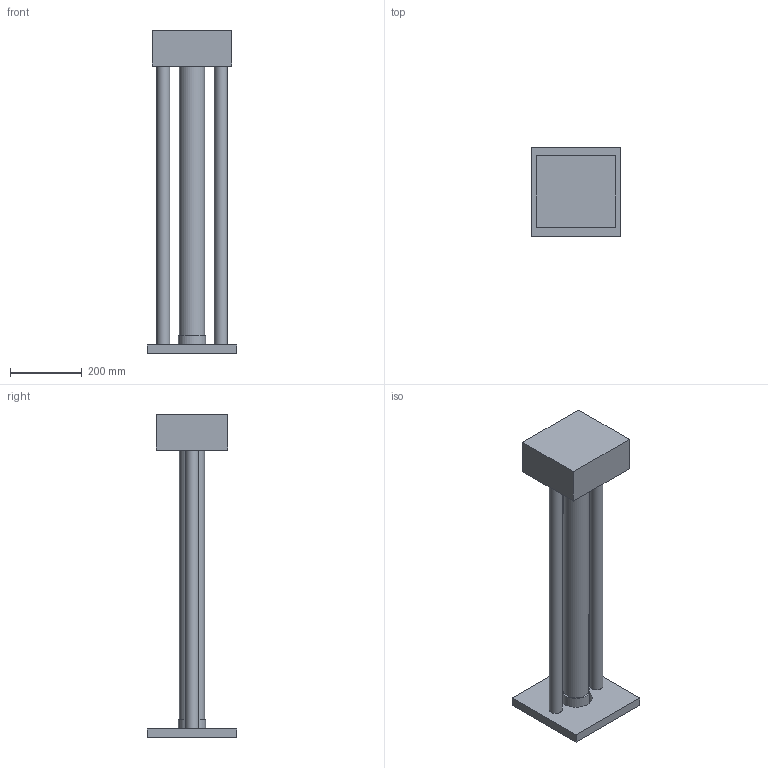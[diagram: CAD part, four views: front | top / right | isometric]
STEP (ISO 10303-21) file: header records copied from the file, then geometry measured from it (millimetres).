
FILE_DESCRIPTION(/* description */ (''),/* implementation_level */ '2;1');
FILE_NAME(/* name */ 'core_drill.step',/* time_stamp */ '2026-11-14T21:11:02+01:00',/* author */ ('malgo'),/* organization */ (''),/* preprocessor_version */ 'ST-DEVELOPER v20.1',/* originating_system */ 'Autodesk Inventor 2026',/* authorisation */ '');
FILE_SCHEMA (('AUTOMOTIVE_DESIGN { 1 0 10303 214 3 1 1 }'));
Length unit declared in the file: metre
Products named in the file (1): core_drill
Bounding box: 250 x 250 x 900 mm (x, y, z)
Volume: 10494325.9 mm3; surface area: 665822.2 mm2
Topology: 1 solids, 1 shells, 19 faces, 39 edges, 26 vertices
Faces by surface type: plane 14, cylinder 5
Full cylindrical faces by diameter (mm): 36 x2, 70 x1, 76 x1, 90 x1
Entity records: 548 total; most frequent: DIRECTION 89, CARTESIAN_POINT 85, ORIENTED_EDGE 78, EDGE_CURVE 39, AXIS2_PLACEMENT_3D 30, LINE 29, VECTOR 29, EDGE_LOOP 27
